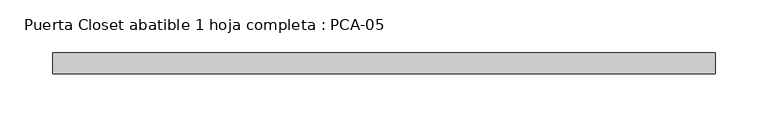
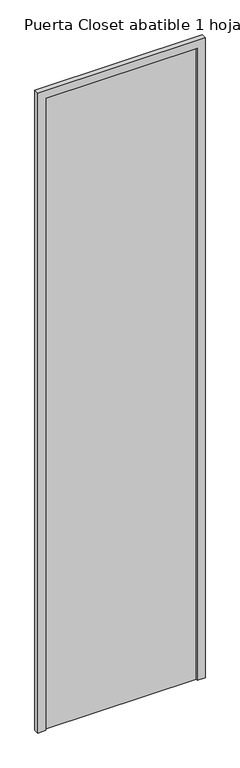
"""IFC4 building model written with IfcOpenShell, lengths in millimetres: furniture geometry, Puerta Closet abatible 1 hoja completa : PCA-05."""

from ifc_helpers import new_model, si_unit, frame, origin, origin_with_axes, place, context, project, spatial, polyline, outline, extrude, source, transform, mapped, element, save


def puerta_closet_abatible_1_hoja_completa_pca_05_5ee4cc02(model_context):
    return source(origin(), model_context, "Body", "SweptSolid", [
        extrude(outline(polyline([(-690.0, 86.6666667), (-1260.0, 86.6666667), (-1260.0, 93.3333333), (-690.0, 93.3333333), (-690.0, 86.6666667)])), origin_with_axes(), (0.0, 0.0, 1.0), 2520.0),
        extrude(outline(polyline([(0.0, -1290.0), (0.0, -1260.0), (2520.0, -1260.0), (2520.0, -690.0), (0.0, -690.0), (0.0, -660.0), (2550.0, -660.0), (2550.0, -1290.0), (0.0, -1290.0)])), frame((0.0, 80.0, 0.0), z_axis=(0.0, 1.0, 0.0), x_axis=(0.0, 0.0, 1.0)), (0.0, 0.0, 1.0), 20.0),
    ])


if __name__ == "__main__":
    model = new_model("IFC4")
    model_context = context("Model", 3, world=origin())
    ifc_project = project(units=[si_unit("LENGTHUNIT", "METRE", prefix="MILLI")], contexts=[model_context])
    site = spatial("IfcSite", under=ifc_project)
    building = spatial("IfcBuilding", under=site)
    placement = place(None, origin())
    puerta_closet_abatible_1_hoja_completa_pca_05_shape = puerta_closet_abatible_1_hoja_completa_pca_05_5ee4cc02(model_context)
    element("IfcFurniture", 1, ObjectType="Puerta Closet abatible 1 hoja completa : PCA-05", at=placement, inside=building, context=model_context, shape_type="MappedRepresentation", body=[
        mapped(puerta_closet_abatible_1_hoja_completa_pca_05_shape, transform((0.0, 0.0, 0.0), x_axis=(1.0, 0.0, 0.0), y_axis=(0.0, 1.0, 0.0), z_axis=(0.0, 0.0, 1.0))),
    ])
    save(model, "model.ifc")
